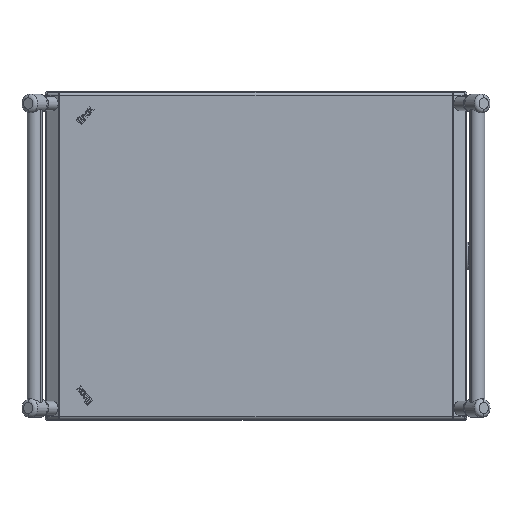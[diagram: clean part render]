
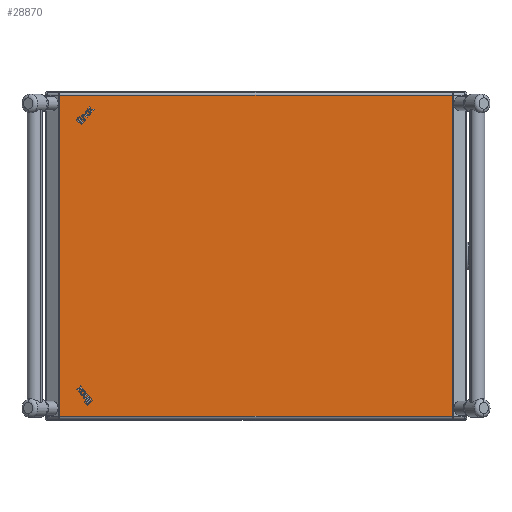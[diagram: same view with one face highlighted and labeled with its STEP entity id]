
A CAD part, top view. The second image highlights one B-rep face of the part: STEP entity #28870.
In plain terms, the highlighted planar face has unit normal (0, 0, 1).
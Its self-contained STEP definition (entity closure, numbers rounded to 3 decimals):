
#757 = CARTESIAN_POINT ( 'NONE',  ( -209.294, -171.35, 26.5 ) ) ;
#2242 = DIRECTION ( 'NONE',  ( 1., 0., 0. ) ) ;
#3945 = LINE ( 'NONE', #6531, #33591 ) ;
#4691 = VERTEX_POINT ( 'NONE', #6342 ) ;
#5186 = VERTEX_POINT ( 'NONE', #31963 ) ;
#5789 = CARTESIAN_POINT ( 'NONE',  ( 210.25, -171.35, 26.5 ) ) ;
#6244 = AXIS2_PLACEMENT_3D ( 'NONE', #9810, #20148, #2242 ) ;
#6342 = CARTESIAN_POINT ( 'NONE',  ( 209.294, 171.35, 26.5 ) ) ;
#6531 = CARTESIAN_POINT ( 'NONE',  ( 209.294, -174.35, 26.5 ) ) ;
#8908 = CARTESIAN_POINT ( 'NONE',  ( -210.25, 171.35, 26.5 ) ) ;
#9648 = PLANE ( 'NONE',  #6244 ) ;
#9810 = CARTESIAN_POINT ( 'NONE',  ( 224.35, -174.35, 26.5 ) ) ;
#10471 = CARTESIAN_POINT ( 'NONE',  ( -209.294, -174.35, 26.5 ) ) ;
#11557 = VECTOR ( 'NONE', #14231, 1000. ) ;
#12476 = EDGE_CURVE ( 'NONE', #5186, #19940, #15622, .T. ) ;
#12737 = FACE_OUTER_BOUND ( 'NONE', #28911, .T. ) ;
#12778 = EDGE_CURVE ( 'NONE', #4691, #5186, #22840, .T. ) ;
#12912 = ORIENTED_EDGE ( 'NONE', *, *, #24041, .T. ) ;
#14231 = DIRECTION ( 'NONE',  ( -1., 0., 0. ) ) ;
#15159 = ORIENTED_EDGE ( 'NONE', *, *, #12476, .T. ) ;
#15622 = LINE ( 'NONE', #10471, #27490 ) ;
#19940 = VERTEX_POINT ( 'NONE', #757 ) ;
#20148 = DIRECTION ( 'NONE',  ( 0., 0., 1. ) ) ;
#22840 = LINE ( 'NONE', #8908, #11557 ) ;
#24041 = EDGE_CURVE ( 'NONE', #28334, #4691, #3945, .T. ) ;
#24787 = DIRECTION ( 'NONE',  ( 0., 1., 0. ) ) ;
#25960 = LINE ( 'NONE', #5789, #29609 ) ;
#27127 = ORIENTED_EDGE ( 'NONE', *, *, #31760, .T. ) ;
#27490 = VECTOR ( 'NONE', #30965, 1000. ) ;
#28334 = VERTEX_POINT ( 'NONE', #32936 ) ;
#28870 = ADVANCED_FACE ( 'NONE', ( #12737 ), #9648, .T. ) ;
#28911 = EDGE_LOOP ( 'NONE', ( #15159, #27127, #12912, #29868 ) ) ;
#29387 = DIRECTION ( 'NONE',  ( 1., 0., 0. ) ) ;
#29609 = VECTOR ( 'NONE', #29387, 1000. ) ;
#29868 = ORIENTED_EDGE ( 'NONE', *, *, #12778, .T. ) ;
#30965 = DIRECTION ( 'NONE',  ( 0., -1., 0. ) ) ;
#31760 = EDGE_CURVE ( 'NONE', #19940, #28334, #25960, .T. ) ;
#31963 = CARTESIAN_POINT ( 'NONE',  ( -209.294, 171.35, 26.5 ) ) ;
#32936 = CARTESIAN_POINT ( 'NONE',  ( 209.294, -171.35, 26.5 ) ) ;
#33591 = VECTOR ( 'NONE', #24787, 1000. ) ;
